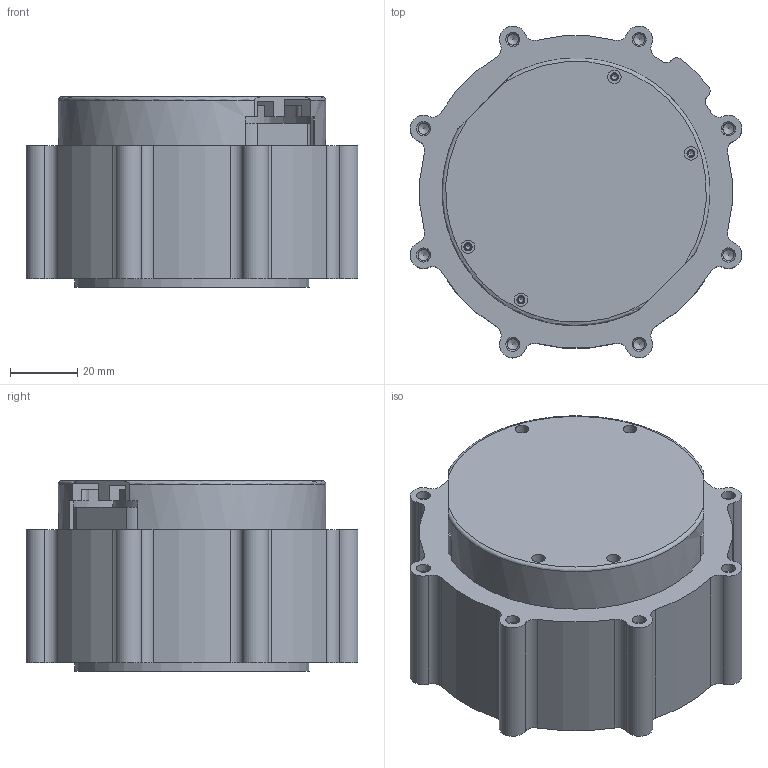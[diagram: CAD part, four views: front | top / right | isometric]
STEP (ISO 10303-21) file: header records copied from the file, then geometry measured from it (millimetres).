
FILE_DESCRIPTION(/* description */ ('STEP AP242 Edition 2','CAx-IF Rec.Pracs.---Representation and Presentation of Product Manufacturing Information (PMI)---4.0---2014-10-13','CAx-IF Rec.Pracs.---3D Tessellated Geometry---0.4---2014-09-14','2;1','CAx-IF Rec.Pracs.---User Defined Attributes---1.5---2016-08-15'),/* implementation_level */ '2;1');
FILE_NAME(/* name */ 'Assy_ForMFG - L_Hip_Yaw_RS03',/* time_stamp */ '2026-05-15T19:56:51Z',/* author */ (''),/* organization */ (''),/* preprocessor_version */ 'ST-DEVELOPER v20',/* originating_system */ 'ONSHAPE BY PTC INC, 1.215',/* authorisation */ ' ');
FILE_SCHEMA (('AP242_MANAGED_MODEL_BASED_3D_ENGINEERING_MIM_LF { 1 0 10303 442 3 1 4 }'));
Length unit declared in the file: metre
Products named in the file (1): L_Hip_Yaw_RS03
Bounding box: 98.53 x 98.53 x 56.6 mm (x, y, z)
Volume: 181195.6 mm3; surface area: 80966.4 mm2
Topology: 1 solids, 1 shells, 404 faces, 1124 edges, 753 vertices
Faces by surface type: cylinder 198, plane 141, cone 61, torus 2, bspline 2
Full cylindrical faces by diameter (mm): 1.6 x4, 2.4 x4, 2.5 x3, 3.3 x16, 3.5 x6, 4 x7, 4.2 x8, 6 x3, 15 x1, 19 x1, 20.2 x1, 47 x1, 58 x3, 59 x1, 59.94 x1, 62.8 x1, 63 x2, 64 x1, 70 x1, 89.6 x1
Entity records: 11778 total; most frequent: DIRECTION 2180, CARTESIAN_POINT 2069, ORIENTED_EDGE 1768, AXIS2_PLACEMENT_3D 905, EDGE_CURVE 884, VERTEX_POINT 664, FACE_BOUND 610, EDGE_LOOP 587
